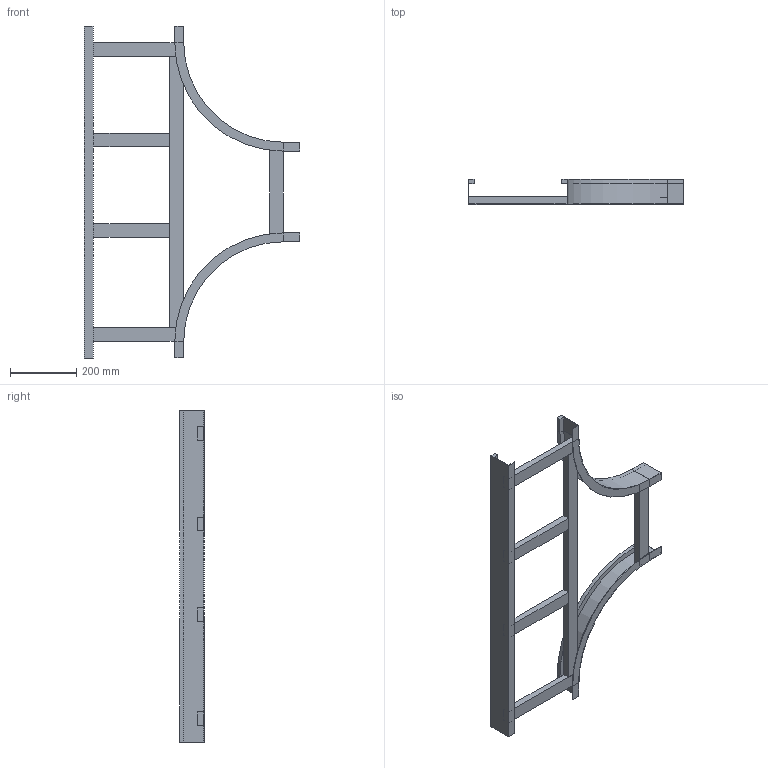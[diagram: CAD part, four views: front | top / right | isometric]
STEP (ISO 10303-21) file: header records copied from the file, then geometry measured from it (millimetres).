
FILE_DESCRIPTION (( 'STEP AP214' ), '1' );
FILE_NAME ('B2_15B3C300.step', '2025-02-21T15:53:42', ( '' ), ( '' ), 'SwSTEP 2.0', 'SolidWorks 2023', '' );
FILE_SCHEMA (( 'AUTOMOTIVE_DESIGN' ));
Length unit declared in the file: millimetre
Products named in the file (6): TRAVERSINO_300; B2_15B3C300; B2_LONGH.RETT_H75_R300+300; B2_LONGH.INTERNO 90°_H75_R300; TRAVERSINO_INTERMEDIO_R300+300; B2_TRAVERSINO_LONG._R300+300
Assembly tree (9 placements, depth 2):
  B2_15B3C300
    B2_LONGH.INTERNO 90°_H75_R300  x2
    B2_LONGH.RETT_H75_R300+300
    TRAVERSINO_300  x3
    B2_TRAVERSINO_LONG._R300+300
    TRAVERSINO_INTERMEDIO_R300+300  x2
Bounding box: 650 x 75 x 1000 mm (x, y, z)
Volume: 2645212 mm3; surface area: 790601.8 mm2
Topology: 9 solids, 9 shells, 98 faces, 208 edges, 128 vertices
Faces by surface type: plane 90, cylinder 8
Entity records: 1639 total; most frequent: DIRECTION 256, CARTESIAN_POINT 254, ORIENTED_EDGE 232, EDGE_CURVE 116, LINE 108, VECTOR 108, AXIS2_PLACEMENT_3D 74, VERTEX_POINT 72
